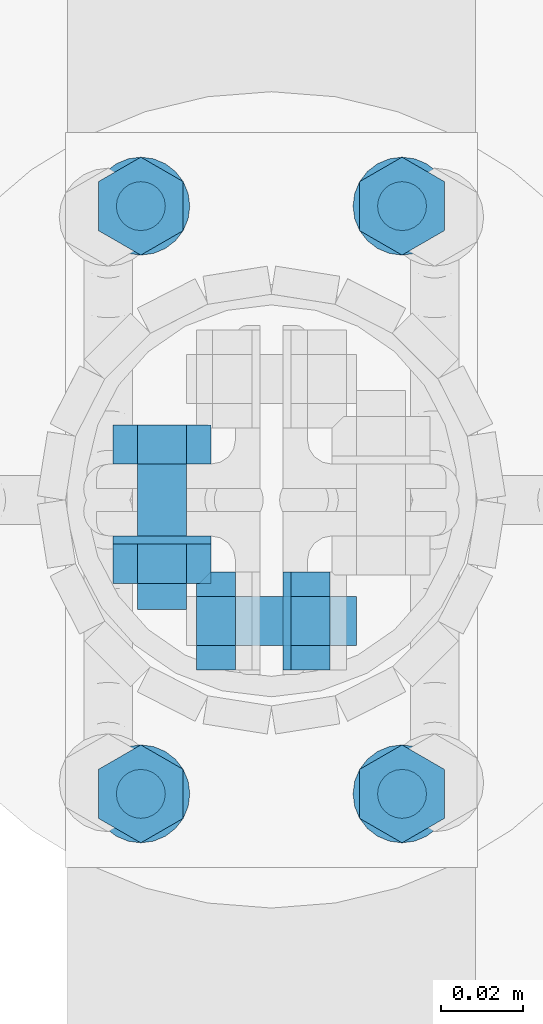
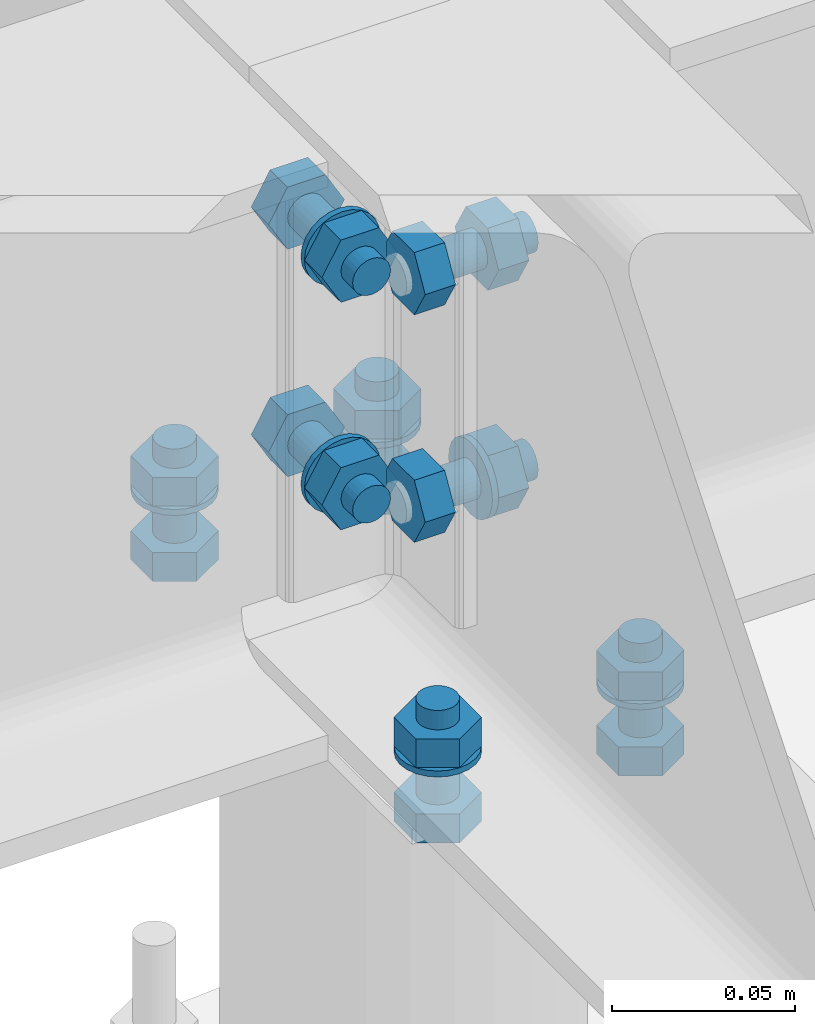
# One storey, part 60 of 84: 39 mechanical fasteners.
"""IFC4 building model written with IfcOpenShell, lengths in metres."""

from ifc_helpers import new_model, si_unit, frame, origin_with_axes, place, context, project, spatial, polyline, outline, extrude, type_object, element, save


model = new_model("IFC4")

# Units and contexts
model_context = context("Model", 3, precision=1e-05, world=origin_with_axes())
ifc_project = project(units=[si_unit("LENGTHUNIT", "METRE"), si_unit("AREAUNIT", "SQUARE_METRE"), si_unit("VOLUMEUNIT", "CUBIC_METRE"), si_unit("MASSUNIT", "GRAM", prefix="KILO"), si_unit("TIMEUNIT", "SECOND"), si_unit("PLANEANGLEUNIT", "RADIAN"), si_unit("SOLIDANGLEUNIT", "STERADIAN"), si_unit("THERMODYNAMICTEMPERATUREUNIT", "DEGREE_CELSIUS")], contexts=[model_context])

# Site, building, storey
placement_1 = place(None, origin_with_axes())
site = spatial("IfcSite", under=ifc_project, at=placement_1, Name="Italia", CompositionType="ELEMENT")
building = spatial("IfcBuilding", under=site, at=placement_1, Name="Tettoia", CompositionType="ELEMENT")
storey_placement = place(None, frame((0.0, 0.0, 4.199999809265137), z_axis=(0.0, 0.0, 1.0), x_axis=(1.0, 0.0, 0.0)))
storey = spatial("IfcBuildingStorey", under=building, at=storey_placement, Name="Storey 1", CompositionType="ELEMENT", Elevation=4.199999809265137)

# Mechanical fasteners
mechanical_fastener_type_1 = type_object("IfcMechanicalFastenerType", Name="Collegamento 0109_-009", PredefinedType="BOLT")
placement_2 = place(placement_1, origin_with_axes())
mechanical_fastener_1_placement = place(placement_2, origin_with_axes())
element("IfcMechanicalFastener", 1, at=mechanical_fastener_1_placement, inside=storey, type_object=mechanical_fastener_type_1, Name="Collegamento 0109_-009", NominalDiameter=0.0119997, context=model_context, shape_type="SweptSolid", body=[
    extrude(outline(polyline([(0.0, 0.0), (0.0120001, 0.0), (0.0179996, -0.0103931), (0.0120001, -0.0207853), (0.0, -0.0207853), (-0.00599957, -0.0103931), (0.0, 0.0)])), frame((8.33239, 10.036, 4.195), z_axis=(0.0, 0.0, -1.0), x_axis=(0.0, 1.0, 0.0)), (0.0, 0.0, 1.0), 0.00959969),
])
mechanical_fastener_type_2 = type_object("IfcMechanicalFastenerType", Name="Collegamento 0109_-009", PredefinedType="BOLT")
mechanical_fastener_2_placement = place(placement_2, origin_with_axes())
element("IfcMechanicalFastener", 2, at=mechanical_fastener_2_placement, inside=storey, type_object=mechanical_fastener_type_2, Name="Collegamento 0109_-009", NominalDiameter=0.012, context=model_context, shape_type="SweptSolid", body=[
    extrude(outline(polyline([(0.0, 0.0), (-0.000204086, -0.00155258), (-0.000802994, -0.00300026), (-0.00175667, -0.0042429), (-0.00299931, -0.00519657), (-0.00444698, -0.00579548), (-0.00599957, -0.00599957), (-0.00755215, -0.00579548), (-0.00899982, -0.00519657), (-0.0102425, -0.0042429), (-0.0111961, -0.00300026), (-0.011795, -0.00155258), (-0.0119991, 0.0), (-0.011795, 0.00155258), (-0.0111961, 0.00300026), (-0.0102425, 0.0042429), (-0.00899982, 0.00519657), (-0.00755215, 0.00579548), (-0.00599957, 0.00599957), (-0.00444698, 0.00579548), (-0.00299931, 0.00519657), (-0.00175667, 0.0042429), (-0.000802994, 0.00300026), (-0.000204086, 0.00155258), (0.0, 0.0)])), frame((8.322, 10.048, 4.2265), z_axis=(0.0, 0.0, -1.0), x_axis=(0.0, 1.0, 0.0)), (0.0, 0.0, 1.0), 0.0315003),
])
mechanical_fastener_type_3 = type_object("IfcMechanicalFastenerType", Name="Collegamento 0109_-009", PredefinedType="BOLT")
mechanical_fastener_3_placement = place(placement_2, origin_with_axes())
element("IfcMechanicalFastener", 3, at=mechanical_fastener_3_placement, inside=storey, type_object=mechanical_fastener_type_3, Name="Collegamento 0109_-009", NominalDiameter=0.0119997, context=model_context, shape_type="SweptSolid", body=[
    extrude(outline(polyline([(0.0, 0.0), (0.0120001, 0.0), (0.0179996, -0.0103931), (0.0120001, -0.0207853), (0.0, -0.0207853), (-0.00599957, -0.0103931), (0.0, 0.0)])), frame((8.33239, 10.036, 4.2201), z_axis=(0.0, 0.0, -1.0), x_axis=(0.0, 1.0, 0.0)), (0.0, 0.0, 1.0), 0.00960016),
])
mechanical_fastener_type_4 = type_object("IfcMechanicalFastenerType", Name="Collegamento 0109_-009", PredefinedType="BOLT")
mechanical_fastener_4_placement = place(placement_2, origin_with_axes())
element("IfcMechanicalFastener", 4, at=mechanical_fastener_4_placement, inside=storey, type_object=mechanical_fastener_type_4, Name="Collegamento 0109_-009", NominalDiameter=0.024, context=model_context, shape_type="SweptSolid", body=[
    extrude(outline(polyline([(0.0, 0.0), (-0.000409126, -0.00310612), (-0.00160789, -0.00599957), (-0.00351524, -0.00848484), (-0.00600052, -0.0103922), (-0.00889397, -0.011591), (-0.0120001, -0.0120001), (-0.0151062, -0.011591), (-0.0179996, -0.0103922), (-0.0204849, -0.00848484), (-0.0223923, -0.00599957), (-0.023591, -0.00310612), (-0.0240002, 0.0), (-0.023591, 0.00310612), (-0.0223923, 0.00599957), (-0.0204849, 0.00848484), (-0.0179996, 0.0103922), (-0.0151062, 0.011591), (-0.0120001, 0.0120001), (-0.00889397, 0.011591), (-0.00600052, 0.0103922), (-0.00351524, 0.00848484), (-0.00160789, 0.00599957), (-0.000409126, 0.00310612), (0.0, 0.0)])), frame((8.322, 10.054, 4.2105), z_axis=(0.0, 0.0, -1.0), x_axis=(0.0, 1.0, 0.0)), (0.0, 0.0, 1.0), 0.00199986),
])
mechanical_fastener_type_5 = type_object("IfcMechanicalFastenerType", Name="Collegamento 0109_-009", PredefinedType="BOLT")
mechanical_fastener_5_placement = place(placement_2, origin_with_axes())
element("IfcMechanicalFastener", 5, at=mechanical_fastener_5_placement, inside=storey, type_object=mechanical_fastener_type_5, Name="Collegamento 0109_-009", NominalDiameter=0.0119997, context=model_context, shape_type="SweptSolid", body=[
    extrude(outline(polyline([(0.0, 0.0), (0.0120001, 0.0), (0.0179996, -0.0103931), (0.0120001, -0.0207853), (0.0, -0.0207853), (-0.00599957, -0.0103931), (0.0, 0.0)])), frame((8.33239, 9.892, 4.195), z_axis=(0.0, 0.0, -1.0), x_axis=(0.0, 1.0, 0.0)), (0.0, 0.0, 1.0), 0.00959969),
])
mechanical_fastener_type_6 = type_object("IfcMechanicalFastenerType", Name="Collegamento 0109_-009", PredefinedType="BOLT")
mechanical_fastener_6_placement = place(placement_2, origin_with_axes())
element("IfcMechanicalFastener", 6, at=mechanical_fastener_6_placement, inside=storey, type_object=mechanical_fastener_type_6, Name="Collegamento 0109_-009", NominalDiameter=0.012, context=model_context, shape_type="SweptSolid", body=[
    extrude(outline(polyline([(0.0, 0.0), (-0.000204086, -0.00155258), (-0.000802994, -0.00300026), (-0.00175667, -0.0042429), (-0.00299931, -0.00519657), (-0.00444698, -0.00579548), (-0.00599957, -0.00599957), (-0.00755215, -0.00579548), (-0.00899982, -0.00519657), (-0.0102425, -0.0042429), (-0.0111961, -0.00300026), (-0.011795, -0.00155258), (-0.0119991, 0.0), (-0.011795, 0.00155258), (-0.0111961, 0.00300026), (-0.0102425, 0.0042429), (-0.00899982, 0.00519657), (-0.00755215, 0.00579548), (-0.00599957, 0.00599957), (-0.00444698, 0.00579548), (-0.00299931, 0.00519657), (-0.00175667, 0.0042429), (-0.000802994, 0.00300026), (-0.000204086, 0.00155258), (0.0, 0.0)])), frame((8.322, 9.904, 4.2265), z_axis=(0.0, 0.0, -1.0), x_axis=(0.0, 1.0, 0.0)), (0.0, 0.0, 1.0), 0.0315003),
])
mechanical_fastener_type_7 = type_object("IfcMechanicalFastenerType", Name="Collegamento 0109_-009", PredefinedType="BOLT")
mechanical_fastener_7_placement = place(placement_2, origin_with_axes())
element("IfcMechanicalFastener", 7, at=mechanical_fastener_7_placement, inside=storey, type_object=mechanical_fastener_type_7, Name="Collegamento 0109_-009", NominalDiameter=0.0119997, context=model_context, shape_type="SweptSolid", body=[
    extrude(outline(polyline([(0.0, 0.0), (0.0120001, 0.0), (0.0179996, -0.0103931), (0.0120001, -0.0207853), (0.0, -0.0207853), (-0.00599957, -0.0103931), (0.0, 0.0)])), frame((8.33239, 9.892, 4.2201), z_axis=(0.0, 0.0, -1.0), x_axis=(0.0, 1.0, 0.0)), (0.0, 0.0, 1.0), 0.00960016),
])
mechanical_fastener_type_8 = type_object("IfcMechanicalFastenerType", Name="Collegamento 0109_-009", PredefinedType="BOLT")
mechanical_fastener_8_placement = place(placement_2, origin_with_axes())
element("IfcMechanicalFastener", 8, at=mechanical_fastener_8_placement, inside=storey, type_object=mechanical_fastener_type_8, Name="Collegamento 0109_-009", NominalDiameter=0.024, context=model_context, shape_type="SweptSolid", body=[
    extrude(outline(polyline([(0.0, 0.0), (-0.000409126, -0.00310612), (-0.00160789, -0.00599957), (-0.00351524, -0.00848484), (-0.00600052, -0.0103922), (-0.00889397, -0.011591), (-0.0120001, -0.0120001), (-0.0151062, -0.011591), (-0.0179996, -0.0103922), (-0.0204849, -0.00848484), (-0.0223923, -0.00599957), (-0.023591, -0.00310612), (-0.0240002, 0.0), (-0.023591, 0.00310612), (-0.0223923, 0.00599957), (-0.0204849, 0.00848484), (-0.0179996, 0.0103922), (-0.0151062, 0.011591), (-0.0120001, 0.0120001), (-0.00889397, 0.011591), (-0.00600052, 0.0103922), (-0.00351524, 0.00848484), (-0.00160789, 0.00599957), (-0.000409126, 0.00310612), (0.0, 0.0)])), frame((8.322, 9.91, 4.2105), z_axis=(0.0, 0.0, -1.0), x_axis=(0.0, 1.0, 0.0)), (0.0, 0.0, 1.0), 0.00199986),
])
mechanical_fastener_type_9 = type_object("IfcMechanicalFastenerType", Name="Collegamento 0109_-009", PredefinedType="BOLT")
mechanical_fastener_9_placement = place(placement_2, origin_with_axes())
element("IfcMechanicalFastener", 9, at=mechanical_fastener_9_placement, inside=storey, type_object=mechanical_fastener_type_9, Name="Collegamento 0109_-009", NominalDiameter=0.0119997, context=model_context, shape_type="SweptSolid", body=[
    extrude(outline(polyline([(0.0, 0.0), (0.0120001, 0.0), (0.0179996, -0.0103922), (0.0120001, -0.0207853), (0.0, -0.0207853), (-0.00599957, -0.0103922), (0.0, 0.0)])), frame((8.26839, 10.036, 4.195), z_axis=(0.0, 0.0, -1.0), x_axis=(0.0, 1.0, 0.0)), (0.0, 0.0, 1.0), 0.00959969),
])
mechanical_fastener_type_10 = type_object("IfcMechanicalFastenerType", Name="Collegamento 0109_-009", PredefinedType="BOLT")
mechanical_fastener_10_placement = place(placement_2, origin_with_axes())
element("IfcMechanicalFastener", 10, at=mechanical_fastener_10_placement, inside=storey, type_object=mechanical_fastener_type_10, Name="Collegamento 0109_-009", NominalDiameter=0.012, context=model_context, shape_type="SweptSolid", body=[
    extrude(outline(polyline([(0.0, 0.0), (-0.000204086, -0.00155258), (-0.000802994, -0.00300026), (-0.00175667, -0.0042429), (-0.00299931, -0.00519657), (-0.00444698, -0.00579548), (-0.00599957, -0.00599957), (-0.00755215, -0.00579548), (-0.00899982, -0.00519657), (-0.0102425, -0.0042429), (-0.0111961, -0.00300026), (-0.011795, -0.00155258), (-0.0119991, 0.0), (-0.011795, 0.00155258), (-0.0111961, 0.00300026), (-0.0102425, 0.0042429), (-0.00899982, 0.00519657), (-0.00755215, 0.00579548), (-0.00599957, 0.00599957), (-0.00444698, 0.00579548), (-0.00299931, 0.00519657), (-0.00175667, 0.0042429), (-0.000802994, 0.00300026), (-0.000204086, 0.00155258), (0.0, 0.0)])), frame((8.258, 10.048, 4.2265), z_axis=(0.0, 0.0, -1.0), x_axis=(0.0, 1.0, 0.0)), (0.0, 0.0, 1.0), 0.0315003),
])
mechanical_fastener_type_11 = type_object("IfcMechanicalFastenerType", Name="Collegamento 0109_-009", PredefinedType="BOLT")
mechanical_fastener_11_placement = place(placement_2, origin_with_axes())
element("IfcMechanicalFastener", 11, at=mechanical_fastener_11_placement, inside=storey, type_object=mechanical_fastener_type_11, Name="Collegamento 0109_-009", NominalDiameter=0.0119997, context=model_context, shape_type="SweptSolid", body=[
    extrude(outline(polyline([(0.0, 0.0), (0.0120001, 0.0), (0.0179996, -0.0103922), (0.0120001, -0.0207853), (0.0, -0.0207853), (-0.00599957, -0.0103922), (0.0, 0.0)])), frame((8.26839, 10.036, 4.2201), z_axis=(0.0, 0.0, -1.0), x_axis=(0.0, 1.0, 0.0)), (0.0, 0.0, 1.0), 0.00960016),
])
mechanical_fastener_type_12 = type_object("IfcMechanicalFastenerType", Name="Collegamento 0109_-009", PredefinedType="BOLT")
mechanical_fastener_12_placement = place(placement_2, origin_with_axes())
element("IfcMechanicalFastener", 12, at=mechanical_fastener_12_placement, inside=storey, type_object=mechanical_fastener_type_12, Name="Collegamento 0109_-009", NominalDiameter=0.024, context=model_context, shape_type="SweptSolid", body=[
    extrude(outline(polyline([(0.0, 0.0), (-0.000409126, -0.00310612), (-0.00160789, -0.00599957), (-0.00351524, -0.00848484), (-0.00600052, -0.0103922), (-0.00889397, -0.011591), (-0.0120001, -0.0120001), (-0.0151062, -0.011591), (-0.0179996, -0.0103922), (-0.0204849, -0.00848484), (-0.0223923, -0.00599957), (-0.023591, -0.00310612), (-0.0240002, 0.0), (-0.023591, 0.00310612), (-0.0223923, 0.00599957), (-0.0204849, 0.00848484), (-0.0179996, 0.0103922), (-0.0151062, 0.011591), (-0.0120001, 0.0120001), (-0.00889397, 0.011591), (-0.00600052, 0.0103922), (-0.00351524, 0.00848484), (-0.00160789, 0.00599957), (-0.000409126, 0.00310612), (0.0, 0.0)])), frame((8.258, 10.054, 4.2105), z_axis=(0.0, 0.0, -1.0), x_axis=(0.0, 1.0, 0.0)), (0.0, 0.0, 1.0), 0.00199986),
])
mechanical_fastener_type_13 = type_object("IfcMechanicalFastenerType", Name="Collegamento 0109_-009", PredefinedType="BOLT")
mechanical_fastener_13_placement = place(placement_2, origin_with_axes())
element("IfcMechanicalFastener", 13, at=mechanical_fastener_13_placement, inside=storey, type_object=mechanical_fastener_type_13, Name="Collegamento 0109_-009", NominalDiameter=0.0119997, context=model_context, shape_type="SweptSolid", body=[
    extrude(outline(polyline([(0.0, 0.0), (0.0120001, 0.0), (0.0179996, -0.0103922), (0.0120001, -0.0207853), (0.0, -0.0207853), (-0.00599957, -0.0103922), (0.0, 0.0)])), frame((8.26839, 9.892, 4.195), z_axis=(0.0, 0.0, -1.0), x_axis=(0.0, 1.0, 0.0)), (0.0, 0.0, 1.0), 0.00959969),
])
mechanical_fastener_type_14 = type_object("IfcMechanicalFastenerType", Name="Collegamento 0109_-009", PredefinedType="BOLT")
mechanical_fastener_14_placement = place(placement_2, origin_with_axes())
element("IfcMechanicalFastener", 14, at=mechanical_fastener_14_placement, inside=storey, type_object=mechanical_fastener_type_14, Name="Collegamento 0109_-009", NominalDiameter=0.012, context=model_context, shape_type="SweptSolid", body=[
    extrude(outline(polyline([(0.0, 0.0), (-0.000204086, -0.00155258), (-0.000802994, -0.00300026), (-0.00175667, -0.0042429), (-0.00299931, -0.00519657), (-0.00444698, -0.00579548), (-0.00599957, -0.00599957), (-0.00755215, -0.00579548), (-0.00899982, -0.00519657), (-0.0102425, -0.0042429), (-0.0111961, -0.00300026), (-0.011795, -0.00155258), (-0.0119991, 0.0), (-0.011795, 0.00155258), (-0.0111961, 0.00300026), (-0.0102425, 0.0042429), (-0.00899982, 0.00519657), (-0.00755215, 0.00579548), (-0.00599957, 0.00599957), (-0.00444698, 0.00579548), (-0.00299931, 0.00519657), (-0.00175667, 0.0042429), (-0.000802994, 0.00300026), (-0.000204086, 0.00155258), (0.0, 0.0)])), frame((8.258, 9.904, 4.2265), z_axis=(0.0, 0.0, -1.0), x_axis=(0.0, 1.0, 0.0)), (0.0, 0.0, 1.0), 0.0315003),
])
mechanical_fastener_type_15 = type_object("IfcMechanicalFastenerType", Name="Collegamento 0109_-009", PredefinedType="BOLT")
mechanical_fastener_15_placement = place(placement_2, origin_with_axes())
element("IfcMechanicalFastener", 15, at=mechanical_fastener_15_placement, inside=storey, type_object=mechanical_fastener_type_15, Name="Collegamento 0109_-009", NominalDiameter=0.0119997, context=model_context, shape_type="SweptSolid", body=[
    extrude(outline(polyline([(0.0, 0.0), (0.0120001, 0.0), (0.0179996, -0.0103922), (0.0120001, -0.0207853), (0.0, -0.0207853), (-0.00599957, -0.0103922), (0.0, 0.0)])), frame((8.26839, 9.892, 4.2201), z_axis=(0.0, 0.0, -1.0), x_axis=(0.0, 1.0, 0.0)), (0.0, 0.0, 1.0), 0.00960016),
])
mechanical_fastener_type_16 = type_object("IfcMechanicalFastenerType", Name="Collegamento 0109_-009", PredefinedType="BOLT")
mechanical_fastener_16_placement = place(placement_2, origin_with_axes())
element("IfcMechanicalFastener", 16, at=mechanical_fastener_16_placement, inside=storey, type_object=mechanical_fastener_type_16, Name="Collegamento 0109_-009", NominalDiameter=0.024, context=model_context, shape_type="SweptSolid", body=[
    extrude(outline(polyline([(0.0, 0.0), (-0.000409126, -0.00310612), (-0.00160789, -0.00599957), (-0.00351524, -0.00848484), (-0.00600052, -0.0103922), (-0.00889397, -0.011591), (-0.0120001, -0.0120001), (-0.0151062, -0.011591), (-0.0179996, -0.0103922), (-0.0204849, -0.00848484), (-0.0223923, -0.00599957), (-0.023591, -0.00310612), (-0.0240002, 0.0), (-0.023591, 0.00310612), (-0.0223923, 0.00599957), (-0.0204849, 0.00848484), (-0.0179996, 0.0103922), (-0.0151062, 0.011591), (-0.0120001, 0.0120001), (-0.00889397, 0.011591), (-0.00600052, 0.0103922), (-0.00351524, 0.00848484), (-0.00160789, 0.00599957), (-0.000409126, 0.00310612), (0.0, 0.0)])), frame((8.258, 9.91, 4.2105), z_axis=(0.0, 0.0, -1.0), x_axis=(0.0, 1.0, 0.0)), (0.0, 0.0, 1.0), 0.00199986),
])
mechanical_fastener_type_17 = type_object("IfcMechanicalFastenerType", Name="Collegamento 0109_0108", PredefinedType="BOLT")
mechanical_fastener_17_placement = place(placement_2, origin_with_axes())
element("IfcMechanicalFastener", 17, at=mechanical_fastener_17_placement, inside=storey, type_object=mechanical_fastener_type_17, Name="Collegamento 0109_0108", NominalDiameter=0.0119997, context=model_context, shape_type="SweptSolid", body=[
    extrude(outline(polyline([(0.0, 0.0), (-0.0120001, 0.0), (-0.0179996, 0.0103922), (-0.0120001, 0.0207844), (0.0, 0.0207844), (0.00600052, 0.0103922), (0.0, 0.0)])), frame((8.2572, 9.9788, 4.25161), z_axis=(0.0, 1.0, 0.0), x_axis=(-1.0, 0.0, 0.0)), (0.0, 0.0, 1.0), 0.00960064),
])
mechanical_fastener_type_18 = type_object("IfcMechanicalFastenerType", Name="Collegamento 0109_0108", PredefinedType="BOLT")
mechanical_fastener_18_placement = place(placement_2, origin_with_axes())
element("IfcMechanicalFastener", 18, at=mechanical_fastener_18_placement, inside=storey, type_object=mechanical_fastener_type_18, Name="Collegamento 0109_0108", NominalDiameter=0.012, context=model_context, shape_type="SweptSolid", body=[
    extrude(outline(polyline([(0.0, 0.0), (-0.000204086, -0.00155306), (-0.000802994, -0.00299978), (-0.00175667, -0.00424242), (-0.00299931, -0.00519609), (-0.00444698, -0.00579548), (-0.00599957, -0.00600004), (-0.00755215, -0.00579548), (-0.00899982, -0.00519609), (-0.0102425, -0.00424242), (-0.0111961, -0.00299978), (-0.011795, -0.00155306), (-0.0119991, 0.0), (-0.011795, 0.00155306), (-0.0111961, 0.00299978), (-0.0102425, 0.00424242), (-0.00899982, 0.00519609), (-0.00755215, 0.00579548), (-0.00599957, 0.00600004), (-0.00444698, 0.00579548), (-0.00299931, 0.00519609), (-0.00175667, 0.00424242), (-0.000802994, 0.00299978), (-0.000204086, 0.00155306), (0.0, 0.0)])), frame((8.2572, 9.9432, 4.262), z_axis=(0.0, 1.0, 0.0), x_axis=(-1.0, 0.0, 0.0)), (0.0, 0.0, 1.0), 0.0355997),
])
mechanical_fastener_type_19 = type_object("IfcMechanicalFastenerType", Name="Collegamento 0109_0108", PredefinedType="BOLT")
mechanical_fastener_19_placement = place(placement_2, origin_with_axes())
element("IfcMechanicalFastener", 19, at=mechanical_fastener_19_placement, inside=storey, type_object=mechanical_fastener_type_19, Name="Collegamento 0109_0108", NominalDiameter=0.0119997, context=model_context, shape_type="SweptSolid", body=[
    extrude(outline(polyline([(0.0, 0.0), (-0.0120001, 0.0), (-0.0179996, 0.0103922), (-0.0120001, 0.0207844), (0.0, 0.0207844), (0.00600052, 0.0103922), (0.0, 0.0)])), frame((8.2572, 9.9496, 4.25161), z_axis=(0.0, 1.0, 0.0), x_axis=(-1.0, 0.0, 0.0)), (0.0, 0.0, 1.0), 0.00959969),
])
mechanical_fastener_type_20 = type_object("IfcMechanicalFastenerType", Name="Collegamento 0109_0108", PredefinedType="BOLT")
mechanical_fastener_20_placement = place(placement_2, origin_with_axes())
element("IfcMechanicalFastener", 20, at=mechanical_fastener_20_placement, inside=storey, type_object=mechanical_fastener_type_20, Name="Collegamento 0109_0108", NominalDiameter=0.024, context=model_context, shape_type="SweptSolid", body=[
    extrude(outline(polyline([(0.0, 0.0), (-0.000409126, -0.00310564), (-0.00160789, -0.00600004), (-0.00351524, -0.00848532), (-0.00600052, -0.0103922), (-0.00889397, -0.011591), (-0.0120001, -0.0120001), (-0.0151062, -0.011591), (-0.0179996, -0.0103922), (-0.0204849, -0.00848532), (-0.0223923, -0.00600004), (-0.023591, -0.00310564), (-0.0240002, 0.0), (-0.023591, 0.00310564), (-0.0223923, 0.00600004), (-0.0204849, 0.00848532), (-0.0179996, 0.0103922), (-0.0151062, 0.011591), (-0.0120001, 0.0120001), (-0.00889397, 0.011591), (-0.00600052, 0.0103922), (-0.00351524, 0.00848532), (-0.00160789, 0.00600004), (-0.000409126, 0.00310564), (0.0, 0.0)])), frame((8.2512, 9.9592, 4.262), z_axis=(0.0, 1.0, 0.0), x_axis=(-1.0, 0.0, 0.0)), (0.0, 0.0, 1.0), 0.00200081),
])
mechanical_fastener_type_21 = type_object("IfcMechanicalFastenerType", Name="Collegamento 0109_0108", PredefinedType="BOLT")
mechanical_fastener_21_placement = place(placement_2, origin_with_axes())
element("IfcMechanicalFastener", 21, at=mechanical_fastener_21_placement, inside=storey, type_object=mechanical_fastener_type_21, Name="Collegamento 0109_0108", NominalDiameter=0.0119997, context=model_context, shape_type="SweptSolid", body=[
    extrude(outline(polyline([(0.0, 0.0), (-0.0120001, 0.0), (-0.0179996, 0.0103922), (-0.0120001, 0.0207844), (0.0, 0.0207844), (0.00600052, 0.0103922), (0.0, 0.0)])), frame((8.2572, 9.9788, 4.32761), z_axis=(0.0, 1.0, 0.0), x_axis=(-1.0, 0.0, 0.0)), (0.0, 0.0, 1.0), 0.00960064),
])
mechanical_fastener_type_22 = type_object("IfcMechanicalFastenerType", Name="Collegamento 0109_0108", PredefinedType="BOLT")
mechanical_fastener_22_placement = place(placement_2, origin_with_axes())
element("IfcMechanicalFastener", 22, at=mechanical_fastener_22_placement, inside=storey, type_object=mechanical_fastener_type_22, Name="Collegamento 0109_0108", NominalDiameter=0.012, context=model_context, shape_type="SweptSolid", body=[
    extrude(outline(polyline([(0.0, 0.0), (-0.000204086, -0.00155306), (-0.000802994, -0.00299978), (-0.00175667, -0.00424242), (-0.00299931, -0.00519609), (-0.00444698, -0.00579548), (-0.00599957, -0.00600004), (-0.00755215, -0.00579548), (-0.00899982, -0.00519609), (-0.0102425, -0.00424242), (-0.0111961, -0.00299978), (-0.011795, -0.00155306), (-0.0119991, 0.0), (-0.011795, 0.00155306), (-0.0111961, 0.00299978), (-0.0102425, 0.00424242), (-0.00899982, 0.00519609), (-0.00755215, 0.00579548), (-0.00599957, 0.00600004), (-0.00444698, 0.00579548), (-0.00299931, 0.00519609), (-0.00175667, 0.00424242), (-0.000802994, 0.00299978), (-0.000204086, 0.00155306), (0.0, 0.0)])), frame((8.2572, 9.9432, 4.338), z_axis=(0.0, 1.0, 0.0), x_axis=(-1.0, 0.0, 0.0)), (0.0, 0.0, 1.0), 0.0355997),
])
mechanical_fastener_type_23 = type_object("IfcMechanicalFastenerType", Name="Collegamento 0109_0108", PredefinedType="BOLT")
mechanical_fastener_23_placement = place(placement_2, origin_with_axes())
element("IfcMechanicalFastener", 23, at=mechanical_fastener_23_placement, inside=storey, type_object=mechanical_fastener_type_23, Name="Collegamento 0109_0108", NominalDiameter=0.0119997, context=model_context, shape_type="SweptSolid", body=[
    extrude(outline(polyline([(0.0, 0.0), (-0.0120001, 0.0), (-0.0179996, 0.0103922), (-0.0120001, 0.0207844), (0.0, 0.0207844), (0.00600052, 0.0103922), (0.0, 0.0)])), frame((8.2572, 9.9496, 4.32761), z_axis=(0.0, 1.0, 0.0), x_axis=(-1.0, 0.0, 0.0)), (0.0, 0.0, 1.0), 0.00959969),
])
mechanical_fastener_type_24 = type_object("IfcMechanicalFastenerType", Name="Collegamento 0109_0108", PredefinedType="BOLT")
mechanical_fastener_24_placement = place(placement_2, origin_with_axes())
element("IfcMechanicalFastener", 24, at=mechanical_fastener_24_placement, inside=storey, type_object=mechanical_fastener_type_24, Name="Collegamento 0109_0108", NominalDiameter=0.024, context=model_context, shape_type="SweptSolid", body=[
    extrude(outline(polyline([(0.0, 0.0), (-0.000409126, -0.00310564), (-0.00160789, -0.00600004), (-0.00351524, -0.00848532), (-0.00600052, -0.0103922), (-0.00889397, -0.011591), (-0.0120001, -0.0120001), (-0.0151062, -0.011591), (-0.0179996, -0.0103922), (-0.0204849, -0.00848532), (-0.0223923, -0.00600004), (-0.023591, -0.00310564), (-0.0240002, 0.0), (-0.023591, 0.00310564), (-0.0223923, 0.00600004), (-0.0204849, 0.00848532), (-0.0179996, 0.0103922), (-0.0151062, 0.011591), (-0.0120001, 0.0120001), (-0.00889397, 0.011591), (-0.00600052, 0.0103922), (-0.00351524, 0.00848532), (-0.00160789, 0.00600004), (-0.000409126, 0.00310564), (0.0, 0.0)])), frame((8.2512, 9.9592, 4.338), z_axis=(0.0, 1.0, 0.0), x_axis=(-1.0, 0.0, 0.0)), (0.0, 0.0, 1.0), 0.00200081),
])
mechanical_fastener_type_25 = type_object("IfcMechanicalFastenerType", Name="Collegamento 0109_0108", PredefinedType="BOLT")
mechanical_fastener_25_placement = place(placement_2, origin_with_axes())
element("IfcMechanicalFastener", 25, at=mechanical_fastener_25_placement, inside=storey, type_object=mechanical_fastener_type_25, Name="Collegamento 0109_0108", NominalDiameter=0.0119997, context=model_context, shape_type="SweptSolid", body=[
    extrude(outline(polyline([(0.0, 0.0), (-0.0120001, 0.0), (-0.0179996, 0.0103922), (-0.0120001, 0.0207844), (0.0, 0.0207844), (0.00600052, 0.0103922), (0.0, 0.0)])), frame((8.2572, 9.9788, 4.25161), z_axis=(0.0, 1.0, 0.0), x_axis=(-1.0, 0.0, 0.0)), (0.0, 0.0, 1.0), 0.00960064),
])
mechanical_fastener_type_26 = type_object("IfcMechanicalFastenerType", Name="Collegamento 0109_0108", PredefinedType="BOLT")
mechanical_fastener_26_placement = place(placement_2, origin_with_axes())
element("IfcMechanicalFastener", 26, at=mechanical_fastener_26_placement, inside=storey, type_object=mechanical_fastener_type_26, Name="Collegamento 0109_0108", NominalDiameter=0.012, context=model_context, shape_type="SweptSolid", body=[
    extrude(outline(polyline([(0.0, 0.0), (-0.000204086, -0.00155306), (-0.000802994, -0.00299978), (-0.00175667, -0.00424242), (-0.00299931, -0.00519609), (-0.00444698, -0.00579548), (-0.00599957, -0.00600004), (-0.00755215, -0.00579548), (-0.00899982, -0.00519609), (-0.0102425, -0.00424242), (-0.0111961, -0.00299978), (-0.011795, -0.00155306), (-0.0119991, 0.0), (-0.011795, 0.00155306), (-0.0111961, 0.00299978), (-0.0102425, 0.00424242), (-0.00899982, 0.00519609), (-0.00755215, 0.00579548), (-0.00599957, 0.00600004), (-0.00444698, 0.00579548), (-0.00299931, 0.00519609), (-0.00175667, 0.00424242), (-0.000802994, 0.00299978), (-0.000204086, 0.00155306), (0.0, 0.0)])), frame((8.2572, 9.9432, 4.262), z_axis=(0.0, 1.0, 0.0), x_axis=(-1.0, 0.0, 0.0)), (0.0, 0.0, 1.0), 0.0355997),
])
mechanical_fastener_type_27 = type_object("IfcMechanicalFastenerType", Name="Collegamento 0109_0108", PredefinedType="BOLT")
mechanical_fastener_27_placement = place(placement_2, origin_with_axes())
element("IfcMechanicalFastener", 27, at=mechanical_fastener_27_placement, inside=storey, type_object=mechanical_fastener_type_27, Name="Collegamento 0109_0108", NominalDiameter=0.0119997, context=model_context, shape_type="SweptSolid", body=[
    extrude(outline(polyline([(0.0, 0.0), (-0.0120001, 0.0), (-0.0179996, 0.0103922), (-0.0120001, 0.0207844), (0.0, 0.0207844), (0.00600052, 0.0103922), (0.0, 0.0)])), frame((8.2572, 9.9496, 4.25161), z_axis=(0.0, 1.0, 0.0), x_axis=(-1.0, 0.0, 0.0)), (0.0, 0.0, 1.0), 0.00959969),
])
mechanical_fastener_type_28 = type_object("IfcMechanicalFastenerType", Name="Collegamento 0109_0108", PredefinedType="BOLT")
mechanical_fastener_28_placement = place(placement_2, origin_with_axes())
element("IfcMechanicalFastener", 28, at=mechanical_fastener_28_placement, inside=storey, type_object=mechanical_fastener_type_28, Name="Collegamento 0109_0108", NominalDiameter=0.024, context=model_context, shape_type="SweptSolid", body=[
    extrude(outline(polyline([(0.0, 0.0), (-0.000409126, -0.00310564), (-0.00160789, -0.00600004), (-0.00351524, -0.00848532), (-0.00600052, -0.0103922), (-0.00889397, -0.011591), (-0.0120001, -0.0120001), (-0.0151062, -0.011591), (-0.0179996, -0.0103922), (-0.0204849, -0.00848532), (-0.0223923, -0.00600004), (-0.023591, -0.00310564), (-0.0240002, 0.0), (-0.023591, 0.00310564), (-0.0223923, 0.00600004), (-0.0204849, 0.00848532), (-0.0179996, 0.0103922), (-0.0151062, 0.011591), (-0.0120001, 0.0120001), (-0.00889397, 0.011591), (-0.00600052, 0.0103922), (-0.00351524, 0.00848532), (-0.00160789, 0.00600004), (-0.000409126, 0.00310564), (0.0, 0.0)])), frame((8.2512, 9.9592, 4.262), z_axis=(0.0, 1.0, 0.0), x_axis=(-1.0, 0.0, 0.0)), (0.0, 0.0, 1.0), 0.00200081),
])
mechanical_fastener_type_29 = type_object("IfcMechanicalFastenerType", Name="Collegamento 0109_0108", PredefinedType="BOLT")
mechanical_fastener_29_placement = place(placement_2, origin_with_axes())
element("IfcMechanicalFastener", 29, at=mechanical_fastener_29_placement, inside=storey, type_object=mechanical_fastener_type_29, Name="Collegamento 0109_0108", NominalDiameter=0.0119997, context=model_context, shape_type="SweptSolid", body=[
    extrude(outline(polyline([(0.0, 0.0), (-0.0120001, 0.0), (-0.0179996, 0.0103922), (-0.0120001, 0.0207844), (0.0, 0.0207844), (0.00600052, 0.0103922), (0.0, 0.0)])), frame((8.2572, 9.9788, 4.32761), z_axis=(0.0, 1.0, 0.0), x_axis=(-1.0, 0.0, 0.0)), (0.0, 0.0, 1.0), 0.00960064),
])
mechanical_fastener_type_30 = type_object("IfcMechanicalFastenerType", Name="Collegamento 0109_0108", PredefinedType="BOLT")
mechanical_fastener_30_placement = place(placement_2, origin_with_axes())
element("IfcMechanicalFastener", 30, at=mechanical_fastener_30_placement, inside=storey, type_object=mechanical_fastener_type_30, Name="Collegamento 0109_0108", NominalDiameter=0.012, context=model_context, shape_type="SweptSolid", body=[
    extrude(outline(polyline([(0.0, 0.0), (-0.000204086, -0.00155306), (-0.000802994, -0.00299978), (-0.00175667, -0.00424242), (-0.00299931, -0.00519609), (-0.00444698, -0.00579548), (-0.00599957, -0.00600004), (-0.00755215, -0.00579548), (-0.00899982, -0.00519609), (-0.0102425, -0.00424242), (-0.0111961, -0.00299978), (-0.011795, -0.00155306), (-0.0119991, 0.0), (-0.011795, 0.00155306), (-0.0111961, 0.00299978), (-0.0102425, 0.00424242), (-0.00899982, 0.00519609), (-0.00755215, 0.00579548), (-0.00599957, 0.00600004), (-0.00444698, 0.00579548), (-0.00299931, 0.00519609), (-0.00175667, 0.00424242), (-0.000802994, 0.00299978), (-0.000204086, 0.00155306), (0.0, 0.0)])), frame((8.2572, 9.9432, 4.338), z_axis=(0.0, 1.0, 0.0), x_axis=(-1.0, 0.0, 0.0)), (0.0, 0.0, 1.0), 0.0355997),
])
mechanical_fastener_type_31 = type_object("IfcMechanicalFastenerType", Name="Collegamento 0109_0108", PredefinedType="BOLT")
mechanical_fastener_31_placement = place(placement_2, origin_with_axes())
element("IfcMechanicalFastener", 31, at=mechanical_fastener_31_placement, inside=storey, type_object=mechanical_fastener_type_31, Name="Collegamento 0109_0108", NominalDiameter=0.0119997, context=model_context, shape_type="SweptSolid", body=[
    extrude(outline(polyline([(0.0, 0.0), (-0.0120001, 0.0), (-0.0179996, 0.0103922), (-0.0120001, 0.0207844), (0.0, 0.0207844), (0.00600052, 0.0103922), (0.0, 0.0)])), frame((8.2572, 9.9496, 4.32761), z_axis=(0.0, 1.0, 0.0), x_axis=(-1.0, 0.0, 0.0)), (0.0, 0.0, 1.0), 0.00959969),
])
mechanical_fastener_type_32 = type_object("IfcMechanicalFastenerType", Name="Collegamento 0109_0108", PredefinedType="BOLT")
mechanical_fastener_32_placement = place(placement_2, origin_with_axes())
element("IfcMechanicalFastener", 32, at=mechanical_fastener_32_placement, inside=storey, type_object=mechanical_fastener_type_32, Name="Collegamento 0109_0108", NominalDiameter=0.024, context=model_context, shape_type="SweptSolid", body=[
    extrude(outline(polyline([(0.0, 0.0), (-0.000409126, -0.00310564), (-0.00160789, -0.00600004), (-0.00351524, -0.00848532), (-0.00600052, -0.0103922), (-0.00889397, -0.011591), (-0.0120001, -0.0120001), (-0.0151062, -0.011591), (-0.0179996, -0.0103922), (-0.0204849, -0.00848532), (-0.0223923, -0.00600004), (-0.023591, -0.00310564), (-0.0240002, 0.0), (-0.023591, 0.00310564), (-0.0223923, 0.00600004), (-0.0204849, 0.00848532), (-0.0179996, 0.0103922), (-0.0151062, 0.011591), (-0.0120001, 0.0120001), (-0.00889397, 0.011591), (-0.00600052, 0.0103922), (-0.00351524, 0.00848532), (-0.00160789, 0.00600004), (-0.000409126, 0.00310564), (0.0, 0.0)])), frame((8.2512, 9.9592, 4.338), z_axis=(0.0, 1.0, 0.0), x_axis=(-1.0, 0.0, 0.0)), (0.0, 0.0, 1.0), 0.00200081),
])
mechanical_fastener_type_33 = type_object("IfcMechanicalFastenerType", Name="Collegamento 0109_0108", PredefinedType="BOLT")
mechanical_fastener_33_placement = place(placement_2, origin_with_axes())
element("IfcMechanicalFastener", 33, at=mechanical_fastener_33_placement, inside=storey, type_object=mechanical_fastener_type_33, Name="Collegamento 0109_0108", NominalDiameter=0.0119997, context=model_context, shape_type="SweptSolid", body=[
    extrude(outline(polyline([(0.0, 0.0), (-0.0120001, 0.0), (-0.0179996, 0.0103922), (-0.0120001, 0.0207844), (0.0, 0.0207844), (0.00600052, 0.0103922), (0.0, 0.0)])), frame((8.2812, 9.9344, 4.25161), z_axis=(-1.0, 0.0, 0.0), x_axis=(0.0, -1.0, 0.0)), (0.0, 0.0, 1.0), 0.00960064),
])
mechanical_fastener_type_34 = type_object("IfcMechanicalFastenerType", Name="Collegamento 0109_0108", PredefinedType="BOLT")
mechanical_fastener_34_placement = place(placement_2, origin_with_axes())
element("IfcMechanicalFastener", 34, at=mechanical_fastener_34_placement, inside=storey, type_object=mechanical_fastener_type_34, Name="Collegamento 0109_0108", NominalDiameter=0.012, context=model_context, shape_type="SweptSolid", body=[
    extrude(outline(polyline([(0.0, 0.0), (-0.000204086, -0.00155306), (-0.000802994, -0.00299978), (-0.00175667, -0.00424242), (-0.00299931, -0.00519609), (-0.00444698, -0.00579548), (-0.00599957, -0.00600004), (-0.00755215, -0.00579548), (-0.00899982, -0.00519609), (-0.0102425, -0.00424242), (-0.0111961, -0.00299978), (-0.011795, -0.00155306), (-0.0119991, 0.0), (-0.011795, 0.00155306), (-0.0111961, 0.00299978), (-0.0102425, 0.00424242), (-0.00899982, 0.00519609), (-0.00755215, 0.00579548), (-0.00599957, 0.00600004), (-0.00444698, 0.00579548), (-0.00299931, 0.00519609), (-0.00175667, 0.00424242), (-0.000802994, 0.00299978), (-0.000204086, 0.00155306), (0.0, 0.0)])), frame((8.3108, 9.9344, 4.262), z_axis=(-1.0, 0.0, 0.0), x_axis=(0.0, -1.0, 0.0)), (0.0, 0.0, 1.0), 0.0295992),
])
mechanical_fastener_type_35 = type_object("IfcMechanicalFastenerType", Name="Collegamento 0109_0108", PredefinedType="BOLT")
mechanical_fastener_35_placement = place(placement_2, origin_with_axes())
element("IfcMechanicalFastener", 35, at=mechanical_fastener_35_placement, inside=storey, type_object=mechanical_fastener_type_35, Name="Collegamento 0109_0108", NominalDiameter=0.0119997, context=model_context, shape_type="SweptSolid", body=[
    extrude(outline(polyline([(0.0, 0.0), (-0.0120001, 0.0), (-0.0179996, 0.0103922), (-0.0120001, 0.0207844), (0.0, 0.0207844), (0.00600052, 0.0103922), (0.0, 0.0)])), frame((8.3044, 9.9344, 4.25161), z_axis=(-1.0, 0.0, 0.0), x_axis=(0.0, -1.0, 0.0)), (0.0, 0.0, 1.0), 0.00960064),
])
mechanical_fastener_type_36 = type_object("IfcMechanicalFastenerType", Name="Collegamento 0109_0108", PredefinedType="BOLT")
mechanical_fastener_36_placement = place(placement_2, origin_with_axes())
element("IfcMechanicalFastener", 36, at=mechanical_fastener_36_placement, inside=storey, type_object=mechanical_fastener_type_36, Name="Collegamento 0109_0108", NominalDiameter=0.024, context=model_context, shape_type="SweptSolid", body=[
    extrude(outline(polyline([(0.0, 0.0), (-0.000409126, -0.00310564), (-0.00160789, -0.00600004), (-0.00351524, -0.00848532), (-0.00600052, -0.0103922), (-0.00889397, -0.011591), (-0.0120001, -0.0120001), (-0.0151062, -0.011591), (-0.0179996, -0.0103922), (-0.0204849, -0.00848532), (-0.0223923, -0.00600004), (-0.023591, -0.00310564), (-0.0240002, 0.0), (-0.023591, 0.00310564), (-0.0223923, 0.00600004), (-0.0204849, 0.00848532), (-0.0179996, 0.0103922), (-0.0151062, 0.011591), (-0.0120001, 0.0120001), (-0.00889397, 0.011591), (-0.00600052, 0.0103922), (-0.00351524, 0.00848532), (-0.00160789, 0.00600004), (-0.000409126, 0.00310564), (0.0, 0.0)])), frame((8.2948, 9.9284, 4.262), z_axis=(-1.0, 0.0, 0.0), x_axis=(0.0, -1.0, 0.0)), (0.0, 0.0, 1.0), 0.00199986),
])
mechanical_fastener_type_37 = type_object("IfcMechanicalFastenerType", Name="Collegamento 0109_0108", PredefinedType="BOLT")
mechanical_fastener_37_placement = place(placement_2, origin_with_axes())
element("IfcMechanicalFastener", 37, at=mechanical_fastener_37_placement, inside=storey, type_object=mechanical_fastener_type_37, Name="Collegamento 0109_0108", NominalDiameter=0.0119997, context=model_context, shape_type="SweptSolid", body=[
    extrude(outline(polyline([(0.0, 0.0), (-0.0120001, 0.0), (-0.0179996, 0.0103922), (-0.0120001, 0.0207844), (0.0, 0.0207844), (0.00600052, 0.0103922), (0.0, 0.0)])), frame((8.2812, 9.9344, 4.32761), z_axis=(-1.0, 0.0, 0.0), x_axis=(0.0, -1.0, 0.0)), (0.0, 0.0, 1.0), 0.00960064),
])
mechanical_fastener_type_38 = type_object("IfcMechanicalFastenerType", Name="Collegamento 0109_0108", PredefinedType="BOLT")
mechanical_fastener_38_placement = place(placement_2, origin_with_axes())
element("IfcMechanicalFastener", 38, at=mechanical_fastener_38_placement, inside=storey, type_object=mechanical_fastener_type_38, Name="Collegamento 0109_0108", NominalDiameter=0.012, context=model_context, shape_type="SweptSolid", body=[
    extrude(outline(polyline([(0.0, 0.0), (-0.000204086, -0.00155306), (-0.000802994, -0.00299978), (-0.00175667, -0.00424242), (-0.00299931, -0.00519609), (-0.00444698, -0.00579548), (-0.00599957, -0.00600004), (-0.00755215, -0.00579548), (-0.00899982, -0.00519609), (-0.0102425, -0.00424242), (-0.0111961, -0.00299978), (-0.011795, -0.00155306), (-0.0119991, 0.0), (-0.011795, 0.00155306), (-0.0111961, 0.00299978), (-0.0102425, 0.00424242), (-0.00899982, 0.00519609), (-0.00755215, 0.00579548), (-0.00599957, 0.00600004), (-0.00444698, 0.00579548), (-0.00299931, 0.00519609), (-0.00175667, 0.00424242), (-0.000802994, 0.00299978), (-0.000204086, 0.00155306), (0.0, 0.0)])), frame((8.3108, 9.9344, 4.338), z_axis=(-1.0, 0.0, 0.0), x_axis=(0.0, -1.0, 0.0)), (0.0, 0.0, 1.0), 0.0295992),
])
mechanical_fastener_type_39 = type_object("IfcMechanicalFastenerType", Name="Collegamento 0109_0108", PredefinedType="BOLT")
mechanical_fastener_39_placement = place(placement_2, origin_with_axes())
element("IfcMechanicalFastener", 39, at=mechanical_fastener_39_placement, inside=storey, type_object=mechanical_fastener_type_39, Name="Collegamento 0109_0108", NominalDiameter=0.0119997, context=model_context, shape_type="SweptSolid", body=[
    extrude(outline(polyline([(0.0, 0.0), (-0.0120001, 0.0), (-0.0179996, 0.0103922), (-0.0120001, 0.0207844), (0.0, 0.0207844), (0.00600052, 0.0103922), (0.0, 0.0)])), frame((8.3044, 9.9344, 4.32761), z_axis=(-1.0, 0.0, 0.0), x_axis=(0.0, -1.0, 0.0)), (0.0, 0.0, 1.0), 0.00960064),
])

save(model, "model.ifc")
